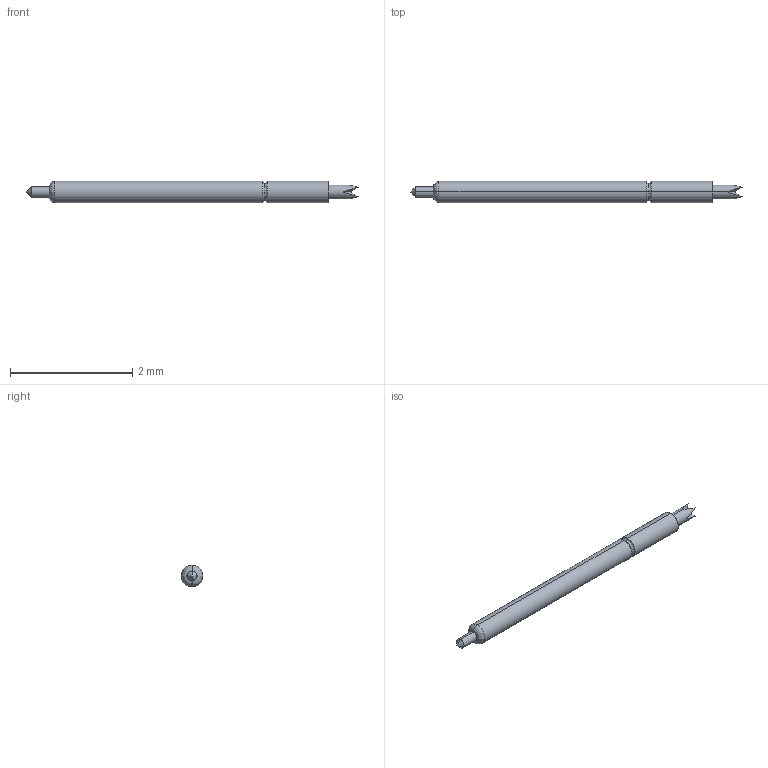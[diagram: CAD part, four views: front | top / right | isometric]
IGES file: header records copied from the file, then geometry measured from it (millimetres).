
Start section: SolidWorks IGES file using analytic representation for surfaces
Global section: file name: Z:\probe solid model mockups\Solidworks models\IGES Files\CSP5-18 IGES files\CSP5-18LB RECD.IGS; native system: SolidWorks 2006 by SolidWorks Corporation; preprocessor: SolidWorks 2006 by SolidWorks Corporation; author: tsakatani; date: 080108.142538; units: inch
Bounding box: 5.44 x 0.35 x 0.35 mm (x, y, z)
Surface area: 5.7 mm2 (no closed solid volume)
Topology: 0 solids, 0 shells, 25 faces, 142 edges, 140 vertices
Faces by surface type: bspline 15, revolution 10
